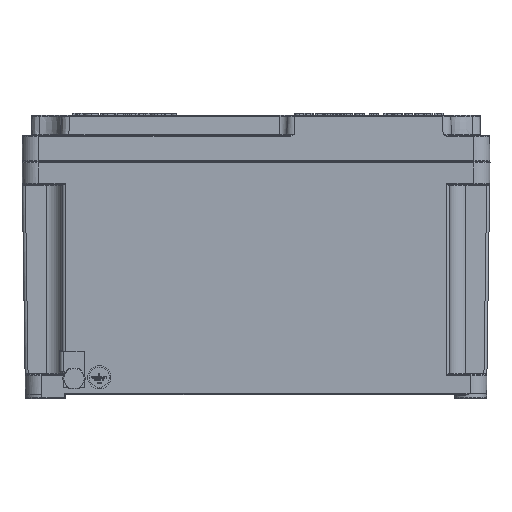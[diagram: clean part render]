
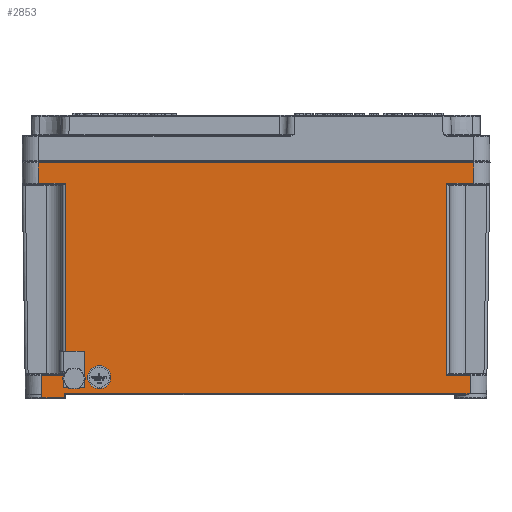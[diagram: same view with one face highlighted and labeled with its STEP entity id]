
A CAD part, left-side view. The second image highlights one B-rep face of the part: STEP entity #2853.
In plain terms, the highlighted planar face has unit normal (-1, 0, -0.015).
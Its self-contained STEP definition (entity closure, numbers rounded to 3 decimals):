
#248=CARTESIAN_POINT('',(-151.159,89.978,10.943));
#249=VERTEX_POINT('',#248);
#257=CARTESIAN_POINT('',(-151.116,89.978,7.993));
#258=DIRECTION('',(-1.,0.,-0.015));
#259=DIRECTION('',(0.015,0.0,-1.));
#260=AXIS2_PLACEMENT_3D('',#257,#258,#259);
#261=ELLIPSE('',#260,2.95,2.95);
#262=EDGE_CURVE('',#249,#249,#261,.T.);
#2130=CARTESIAN_POINT('',(-151.208,77.478,14.302));
#2131=VERTEX_POINT('',#2130);
#2132=CARTESIAN_POINT('',(-151.125,77.478,8.603));
#2133=DIRECTION('',(1.,0.,0.015));
#2134=DIRECTION('',(0.015,0.0,-1.));
#2135=AXIS2_PLACEMENT_3D('',#2132,#2133,#2134);
#2136=CIRCLE('',#2135,5.7);
#2137=EDGE_CURVE('',#2131,#2131,#2136,.T.);
#2704=CARTESIAN_POINT('',(-151.,-114.,0.0));
#2705=DIRECTION('',(-1.,0.,-0.015));
#2706=DIRECTION('',(0.0,-1.0,0.0));
#2707=AXIS2_PLACEMENT_3D('',#2704,#2705,#2706);
#2708=PLANE('',#2707);
#2709=CARTESIAN_POINT('',(-151.007,94.493,0.493));
#2710=VERTEX_POINT('',#2709);
#2711=CARTESIAN_POINT('',(-150.978,94.522,-1.507));
#2712=VERTEX_POINT('',#2711);
#2713=CARTESIAN_POINT('',(-151.007,94.493,0.493));
#2714=DIRECTION('',(0.015,0.015,-1.));
#2715=VECTOR('',#2714,2.);
#2716=LINE('',#2713,#2715);
#2717=EDGE_CURVE('',#2710,#2712,#2716,.T.);
#2718=ORIENTED_EDGE('',*,*,#2717,.F.);
#2719=CARTESIAN_POINT('',(-151.007,-103.237,0.493));
#2720=VERTEX_POINT('',#2719);
#2721=CARTESIAN_POINT('',(-151.007,94.493,0.493));
#2722=DIRECTION('',(0.0,-1.0,0.0));
#2723=VECTOR('',#2722,197.73);
#2724=LINE('',#2721,#2723);
#2725=EDGE_CURVE('',#2710,#2720,#2724,.T.);
#2726=ORIENTED_EDGE('',*,*,#2725,.T.);
#2727=CARTESIAN_POINT('',(-151.007,-106.008,0.493));
#2728=VERTEX_POINT('',#2727);
#2729=CARTESIAN_POINT('',(-151.007,-106.008,0.493));
#2730=DIRECTION('',(0.0,1.0,0.0));
#2731=VECTOR('',#2730,2.771);
#2732=LINE('',#2729,#2731);
#2733=EDGE_CURVE('',#2728,#2720,#2732,.T.);
#2734=ORIENTED_EDGE('',*,*,#2733,.F.);
#2735=CARTESIAN_POINT('',(-151.138,-106.139,9.493));
#2736=VERTEX_POINT('',#2735);
#2737=CARTESIAN_POINT('',(-151.138,-106.139,9.493));
#2738=DIRECTION('',(0.015,0.015,-1.));
#2739=VECTOR('',#2738,9.002);
#2740=LINE('',#2737,#2739);
#2741=EDGE_CURVE('',#2736,#2728,#2740,.T.);
#2742=ORIENTED_EDGE('',*,*,#2741,.F.);
#2743=CARTESIAN_POINT('',(-151.138,-94.258,9.493));
#2744=VERTEX_POINT('',#2743);
#2745=CARTESIAN_POINT('',(-151.138,-94.258,9.493));
#2746=DIRECTION('',(0.0,-1.0,0.0));
#2747=VECTOR('',#2746,11.881);
#2748=LINE('',#2745,#2747);
#2749=EDGE_CURVE('',#2744,#2736,#2748,.T.);
#2750=ORIENTED_EDGE('',*,*,#2749,.F.);
#2751=CARTESIAN_POINT('',(-152.519,-94.238,104.493));
#2752=VERTEX_POINT('',#2751);
#2753=CARTESIAN_POINT('',(-152.519,-94.238,104.493));
#2754=DIRECTION('',(0.015,0.,-1.));
#2755=VECTOR('',#2754,95.01);
#2756=LINE('',#2753,#2755);
#2757=EDGE_CURVE('',#2752,#2744,#2756,.T.);
#2758=ORIENTED_EDGE('',*,*,#2757,.F.);
#2759=CARTESIAN_POINT('',(-152.519,-107.52,104.493));
#2760=VERTEX_POINT('',#2759);
#2761=CARTESIAN_POINT('',(-152.519,-107.52,104.493));
#2762=DIRECTION('',(0.0,1.0,0.0));
#2763=VECTOR('',#2762,13.282);
#2764=LINE('',#2761,#2763);
#2765=EDGE_CURVE('',#2760,#2752,#2764,.T.);
#2766=ORIENTED_EDGE('',*,*,#2765,.F.);
#2767=CARTESIAN_POINT('',(-152.665,-107.666,114.493));
#2768=VERTEX_POINT('',#2767);
#2769=CARTESIAN_POINT('',(-152.665,-107.666,114.493));
#2770=DIRECTION('',(0.015,0.015,-1.));
#2771=VECTOR('',#2770,10.002);
#2772=LINE('',#2769,#2771);
#2773=EDGE_CURVE('',#2768,#2760,#2772,.T.);
#2774=ORIENTED_EDGE('',*,*,#2773,.F.);
#2775=CARTESIAN_POINT('',(-152.665,107.666,114.493));
#2776=VERTEX_POINT('',#2775);
#2777=CARTESIAN_POINT('',(-152.665,107.666,114.493));
#2778=DIRECTION('',(0.0,-1.0,0.0));
#2779=VECTOR('',#2778,215.331);
#2780=LINE('',#2777,#2779);
#2781=EDGE_CURVE('',#2776,#2768,#2780,.T.);
#2782=ORIENTED_EDGE('',*,*,#2781,.F.);
#2783=CARTESIAN_POINT('',(-152.519,107.52,104.493));
#2784=VERTEX_POINT('',#2783);
#2785=CARTESIAN_POINT('',(-152.519,107.52,104.493));
#2786=DIRECTION('',(-0.015,0.015,1.));
#2787=VECTOR('',#2786,10.002);
#2788=LINE('',#2785,#2787);
#2789=EDGE_CURVE('',#2784,#2776,#2788,.T.);
#2790=ORIENTED_EDGE('',*,*,#2789,.F.);
#2791=CARTESIAN_POINT('',(-152.519,94.238,104.493));
#2792=VERTEX_POINT('',#2791);
#2793=CARTESIAN_POINT('',(-152.519,94.238,104.493));
#2794=DIRECTION('',(0.0,1.0,0.0));
#2795=VECTOR('',#2794,13.282);
#2796=LINE('',#2793,#2795);
#2797=EDGE_CURVE('',#2792,#2784,#2796,.T.);
#2798=ORIENTED_EDGE('',*,*,#2797,.F.);
#2799=CARTESIAN_POINT('',(-151.138,94.258,9.493));
#2800=VERTEX_POINT('',#2799);
#2801=CARTESIAN_POINT('',(-151.138,94.258,9.493));
#2802=DIRECTION('',(-0.015,0.,1.));
#2803=VECTOR('',#2802,95.01);
#2804=LINE('',#2801,#2803);
#2805=EDGE_CURVE('',#2800,#2792,#2804,.T.);
#2806=ORIENTED_EDGE('',*,*,#2805,.F.);
#2807=CARTESIAN_POINT('',(-151.138,106.139,9.493));
#2808=VERTEX_POINT('',#2807);
#2809=CARTESIAN_POINT('',(-151.138,106.139,9.493));
#2810=DIRECTION('',(0.0,-1.0,0.0));
#2811=VECTOR('',#2810,11.881);
#2812=LINE('',#2809,#2811);
#2813=EDGE_CURVE('',#2808,#2800,#2812,.T.);
#2814=ORIENTED_EDGE('',*,*,#2813,.F.);
#2815=CARTESIAN_POINT('',(-151.,106.001,0.0));
#2816=VERTEX_POINT('',#2815);
#2817=CARTESIAN_POINT('',(-151.,106.001,0.));
#2818=DIRECTION('',(-0.015,0.015,1.));
#2819=VECTOR('',#2818,9.495);
#2820=LINE('',#2817,#2819);
#2821=EDGE_CURVE('',#2816,#2808,#2820,.T.);
#2822=ORIENTED_EDGE('',*,*,#2821,.F.);
#2823=CARTESIAN_POINT('',(-151.,105.883,0.0));
#2824=VERTEX_POINT('',#2823);
#2825=CARTESIAN_POINT('',(-151.,106.001,0.0));
#2826=DIRECTION('',(0.0,-1.0,0.0));
#2827=VECTOR('',#2826,0.118);
#2828=LINE('',#2825,#2827);
#2829=EDGE_CURVE('',#2816,#2824,#2828,.T.);
#2830=ORIENTED_EDGE('',*,*,#2829,.T.);
#2831=CARTESIAN_POINT('',(-150.978,105.883,-1.507));
#2832=VERTEX_POINT('',#2831);
#2833=CARTESIAN_POINT('',(-151.,105.883,0.));
#2834=DIRECTION('',(0.015,0.,-1.));
#2835=VECTOR('',#2834,1.507);
#2836=LINE('',#2833,#2835);
#2837=EDGE_CURVE('',#2824,#2832,#2836,.T.);
#2838=ORIENTED_EDGE('',*,*,#2837,.T.);
#2839=CARTESIAN_POINT('',(-150.978,94.522,-1.507));
#2840=DIRECTION('',(0.0,1.0,0.0));
#2841=VECTOR('',#2840,11.361);
#2842=LINE('',#2839,#2841);
#2843=EDGE_CURVE('',#2712,#2832,#2842,.T.);
#2844=ORIENTED_EDGE('',*,*,#2843,.F.);
#2845=EDGE_LOOP('',(#2718,#2726,#2734,#2742,#2750,#2758,#2766,#2774,#2782,#2790,#2798,#2806,#2814,#2822,#2830,#2838,#2844));
#2846=FACE_OUTER_BOUND('',#2845,.T.);
#2847=ORIENTED_EDGE('',*,*,#262,.F.);
#2848=EDGE_LOOP('',(#2847));
#2849=FACE_BOUND('',#2848,.T.);
#2850=ORIENTED_EDGE('',*,*,#2137,.T.);
#2851=EDGE_LOOP('',(#2850));
#2852=FACE_BOUND('',#2851,.T.);
#2853=ADVANCED_FACE('',(#2846,#2849,#2852),#2708,.T.);
